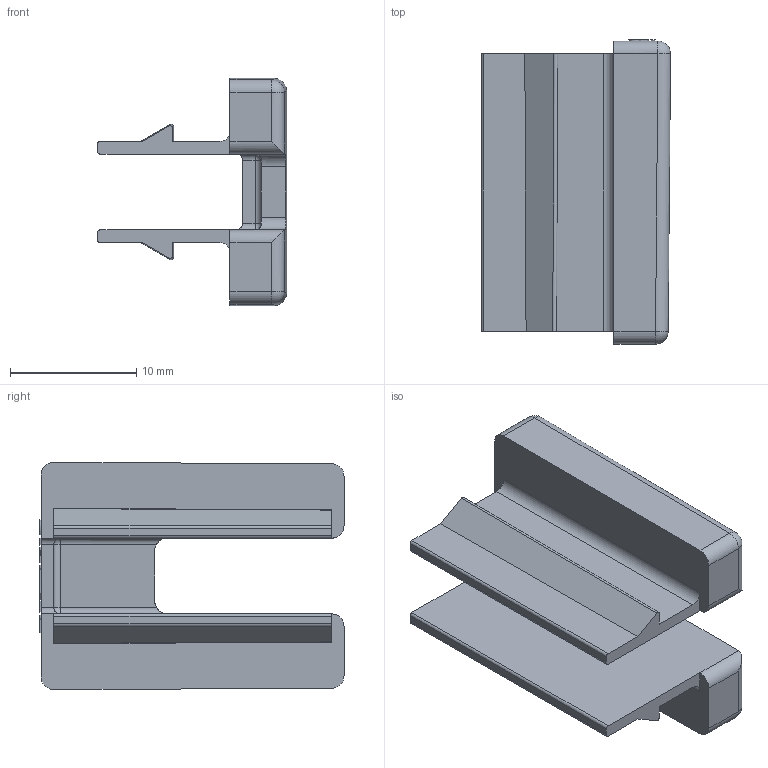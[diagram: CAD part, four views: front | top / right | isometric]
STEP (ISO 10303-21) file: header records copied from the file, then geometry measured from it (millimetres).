
FILE_DESCRIPTION (( 'STEP AP203' ), '1' );
FILE_NAME ('10183_GIT4.STEP', '2018-04-26T07:31:25', ( '' ), ( '' ), 'SwSTEP 2.0', 'SolidWorks 2017', '' );
FILE_SCHEMA (( 'CONFIG_CONTROL_DESIGN' ));
Length unit declared in the file: millimetre
Products named in the file (1): 10183_GIT4
Bounding box: 14.99 x 24.1 x 18 mm (x, y, z)
Volume: 1898.2 mm3; surface area: 2180.5 mm2
Topology: 1 solids, 1 shells, 162 faces, 430 edges, 277 vertices
Faces by surface type: plane 105, cylinder 29, bspline 22, sphere 6
Entity records: 5940 total; most frequent: CARTESIAN_POINT 2026, ORIENTED_EDGE 850, DIRECTION 691, EDGE_CURVE 425, LINE 325, VECTOR 325, VERTEX_POINT 276, AXIS2_PLACEMENT_3D 183
